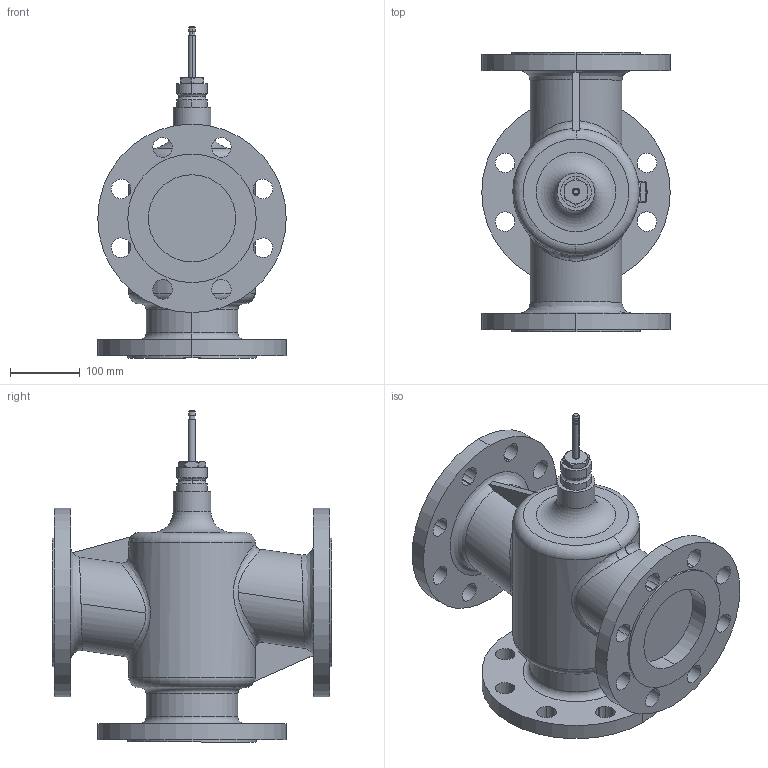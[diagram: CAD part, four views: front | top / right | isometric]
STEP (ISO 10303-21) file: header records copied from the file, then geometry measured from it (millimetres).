
FILE_DESCRIPTION(/* description */ (''),/* implementation_level */ '2;1');
FILE_NAME(/* name */ 'RAS_021853_00.stp',/* time_stamp */ '2012-11-07T08:39:08+01:00',/* author */ (''),/* organization */ (''),/* preprocessor_version */ 'ST-DEVELOPER v11',/* originating_system */ 'SIEMENS UGS NX 6.0',/* authorisation */ '');
FILE_SCHEMA (('AUTOMOTIVE_DESIGN { 1 0 10303 214 1 1 1 1 }'));
Length unit declared in the file: millimetre
Products named in the file (1): RontB30C3tc9
Bounding box: 270 x 400 x 475.5 mm (x, y, z)
Volume: 12090857.1 mm3; surface area: 661045.2 mm2
Topology: 1 solids, 2 shells, 188 faces, 483 edges, 315 vertices
Faces by surface type: cylinder 111, plane 44, torus 15, bspline 10, cone 6, sphere 2
Full cylindrical faces by diameter (mm): 54 x1
Entity records: 9066 total; most frequent: CARTESIAN_POINT 4370, DIRECTION 1013, ORIENTED_EDGE 944, EDGE_CURVE 472, AXIS2_PLACEMENT_3D 430, VERTEX_POINT 310, EDGE_LOOP 258, CIRCLE 249
